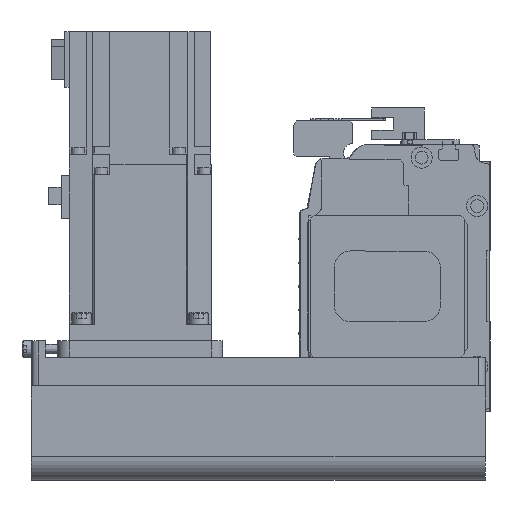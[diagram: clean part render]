
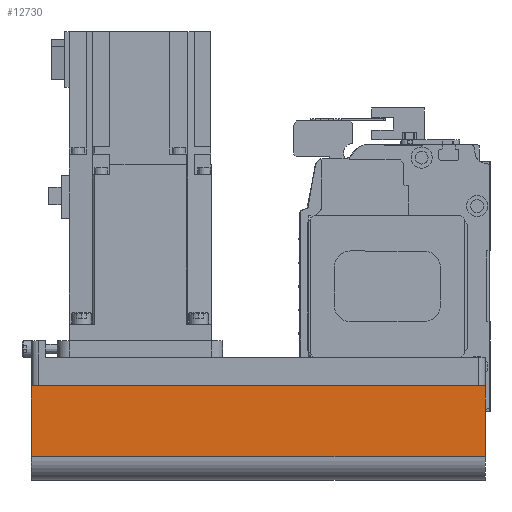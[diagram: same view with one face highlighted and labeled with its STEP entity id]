
A CAD part, left-side view. The second image highlights one B-rep face of the part: STEP entity #12730.
In plain terms, the highlighted planar face has unit normal (-1, 0, 0) as drawn and (0, -1, 0) by its records, which use the part's own axes.
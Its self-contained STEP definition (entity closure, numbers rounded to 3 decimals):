
#2289=ORIENTED_EDGE('',*,*,#5149,.F.);
#2290=ORIENTED_EDGE('',*,*,#5115,.F.);
#2291=ORIENTED_EDGE('',*,*,#5138,.T.);
#2292=ORIENTED_EDGE('',*,*,#5182,.T.);
#5115=EDGE_CURVE('',#6711,#6712,#7993,.T.);
#5138=EDGE_CURVE('',#6711,#6730,#8012,.T.);
#5149=EDGE_CURVE('',#6712,#6738,#8021,.T.);
#5182=EDGE_CURVE('',#6730,#6738,#8034,.T.);
#6711=VERTEX_POINT('',#19879);
#6712=VERTEX_POINT('',#19881);
#6730=VERTEX_POINT('',#19924);
#6738=VERTEX_POINT('',#19948);
#7993=LINE('',#19880,#9221);
#8012=LINE('',#19925,#9240);
#8021=LINE('',#19947,#9249);
#8034=LINE('',#20005,#9262);
#9221=VECTOR('',#15950,1000.);
#9240=VECTOR('',#15983,1000.);
#9249=VECTOR('',#16004,1000.);
#9262=VECTOR('',#16089,1000.);
#10318=EDGE_LOOP('',(#2289,#2290,#2291,#2292));
#11320=FACE_BOUND('',#10318,.T.);
#12153=PLANE('',#13731);
#12730=ADVANCED_FACE('',(#11320),#12153,.T.);
#13731=AXIS2_PLACEMENT_3D('',#20006,#16090,#16091);
#15950=DIRECTION('',(1.,0.,0.));
#15983=DIRECTION('',(0.,0.,-1.));
#16004=DIRECTION('',(0.,0.,-1.));
#16089=DIRECTION('',(1.,0.,0.));
#16090=DIRECTION('',(0.,-1.,0.));
#16091=DIRECTION('',(0.,0.,-1.));
#19879=CARTESIAN_POINT('',(-192.,-40.,-12.1));
#19880=CARTESIAN_POINT('',(-192.,-40.,-12.1));
#19881=CARTESIAN_POINT('',(0.,-40.,-12.1));
#19924=CARTESIAN_POINT('',(-192.,-40.,-42.));
#19925=CARTESIAN_POINT('',(-192.,-40.,-12.1));
#19947=CARTESIAN_POINT('',(0.,-40.,-12.1));
#19948=CARTESIAN_POINT('',(0.,-40.,-42.));
#20005=CARTESIAN_POINT('',(-192.,-40.,-42.));
#20006=CARTESIAN_POINT('',(-192.,-40.,-12.1));
